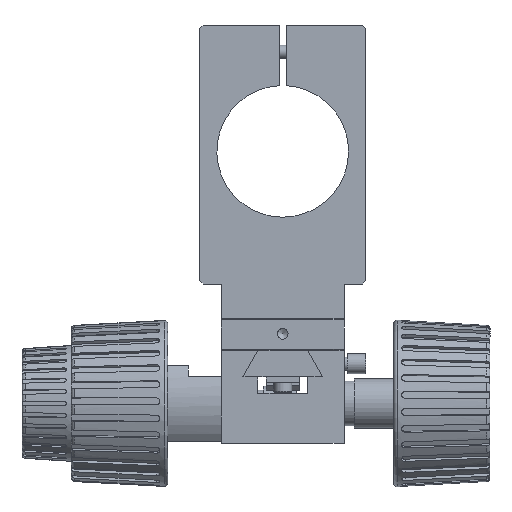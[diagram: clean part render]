
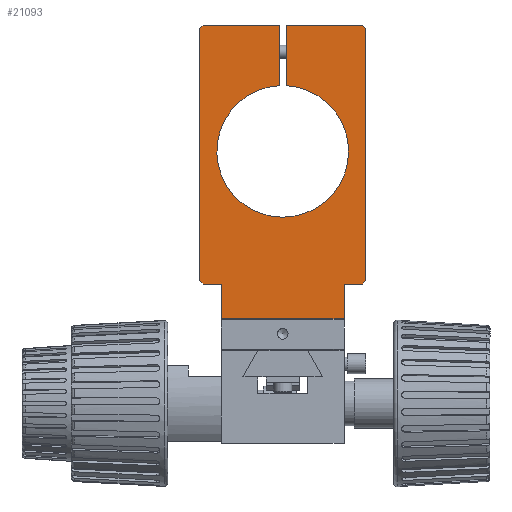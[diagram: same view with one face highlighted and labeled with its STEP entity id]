
A CAD part, left-side view. The second image highlights one B-rep face of the part: STEP entity #21093.
In plain terms, the highlighted planar face has unit normal (-1, 0, 0).
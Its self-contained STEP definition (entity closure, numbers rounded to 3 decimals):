
#1687=PLANE('',#22876);
#2633=FACE_OUTER_BOUND('',#3800,.T.);
#3800=EDGE_LOOP('',(#17815,#17816,#17817,#17818,#17819,#17820,#17821,#17822,
#17823,#17824,#17825,#17826,#17827,#17828,#17829,#17830));
#5185=LINE('',#38430,#6497);
#5201=LINE('',#38464,#6513);
#5203=LINE('',#38468,#6515);
#5205=LINE('',#38473,#6517);
#5208=LINE('',#38478,#6520);
#5210=LINE('',#38482,#6522);
#5216=LINE('',#38494,#6528);
#5220=LINE('',#38503,#6532);
#5221=LINE('',#38505,#6533);
#5223=LINE('',#38509,#6535);
#5224=LINE('',#38512,#6536);
#5226=LINE('',#38515,#6538);
#5227=LINE('',#38518,#6539);
#5230=LINE('',#38524,#6542);
#5233=LINE('',#38529,#6545);
#6497=VECTOR('',#27419,10.);
#6513=VECTOR('',#27441,10.);
#6515=VECTOR('',#27445,10.);
#6517=VECTOR('',#27449,10.);
#6520=VECTOR('',#27454,10.);
#6522=VECTOR('',#27458,10.);
#6528=VECTOR('',#27468,10.);
#6532=VECTOR('',#27478,10.);
#6533=VECTOR('',#27481,10.);
#6535=VECTOR('',#27485,10.);
#6536=VECTOR('',#27488,10.);
#6538=VECTOR('',#27492,10.);
#6539=VECTOR('',#27495,10.);
#6542=VECTOR('',#27500,10.);
#6545=VECTOR('',#27505,10.);
#7363=CIRCLE('',#22866,19.85);
#9368=VERTEX_POINT('',#38428);
#9369=VERTEX_POINT('',#38429);
#9384=VERTEX_POINT('',#38463);
#9385=VERTEX_POINT('',#38467);
#9386=VERTEX_POINT('',#38471);
#9387=VERTEX_POINT('',#38472);
#9388=VERTEX_POINT('',#38477);
#9389=VERTEX_POINT('',#38481);
#9392=VERTEX_POINT('',#38491);
#9393=VERTEX_POINT('',#38493);
#9394=VERTEX_POINT('',#38497);
#9395=VERTEX_POINT('',#38501);
#9396=VERTEX_POINT('',#38507);
#9397=VERTEX_POINT('',#38511);
#9398=VERTEX_POINT('',#38517);
#9400=VERTEX_POINT('',#38523);
#12243=EDGE_CURVE('',#9368,#9369,#5185,.T.);
#12260=EDGE_CURVE('',#9369,#9384,#5201,.T.);
#12262=EDGE_CURVE('',#9384,#9385,#5203,.T.);
#12264=EDGE_CURVE('',#9386,#9387,#5205,.T.);
#12267=EDGE_CURVE('',#9387,#9388,#5208,.T.);
#12269=EDGE_CURVE('',#9388,#9389,#5210,.T.);
#12275=EDGE_CURVE('',#9392,#9393,#5216,.T.);
#12278=EDGE_CURVE('',#9394,#9392,#7363,.T.);
#12280=EDGE_CURVE('',#9395,#9394,#5220,.T.);
#12281=EDGE_CURVE('',#9389,#9395,#5221,.T.);
#12283=EDGE_CURVE('',#9396,#9386,#5223,.T.);
#12284=EDGE_CURVE('',#9385,#9397,#5224,.T.);
#12286=EDGE_CURVE('',#9393,#9368,#5226,.T.);
#12287=EDGE_CURVE('',#9397,#9398,#5227,.T.);
#12290=EDGE_CURVE('',#9398,#9400,#5230,.T.);
#12293=EDGE_CURVE('',#9400,#9396,#5233,.T.);
#17815=ORIENTED_EDGE('',*,*,#12243,.F.);
#17816=ORIENTED_EDGE('',*,*,#12286,.F.);
#17817=ORIENTED_EDGE('',*,*,#12275,.F.);
#17818=ORIENTED_EDGE('',*,*,#12278,.F.);
#17819=ORIENTED_EDGE('',*,*,#12280,.F.);
#17820=ORIENTED_EDGE('',*,*,#12281,.F.);
#17821=ORIENTED_EDGE('',*,*,#12269,.F.);
#17822=ORIENTED_EDGE('',*,*,#12267,.F.);
#17823=ORIENTED_EDGE('',*,*,#12264,.F.);
#17824=ORIENTED_EDGE('',*,*,#12283,.F.);
#17825=ORIENTED_EDGE('',*,*,#12293,.F.);
#17826=ORIENTED_EDGE('',*,*,#12290,.F.);
#17827=ORIENTED_EDGE('',*,*,#12287,.F.);
#17828=ORIENTED_EDGE('',*,*,#12284,.F.);
#17829=ORIENTED_EDGE('',*,*,#12262,.F.);
#17830=ORIENTED_EDGE('',*,*,#12260,.F.);
#21093=ADVANCED_FACE('',(#2633),#1687,.T.);
#22866=AXIS2_PLACEMENT_3D('',#38499,#27473,#27474);
#22876=AXIS2_PLACEMENT_3D('',#38532,#27509,#27510);
#27419=DIRECTION('',(0.,-0.707,-0.707));
#27441=DIRECTION('',(0.,0.,-1.));
#27445=DIRECTION('',(0.,0.707,-0.707));
#27449=DIRECTION('',(0.,0.707,0.707));
#27454=DIRECTION('',(0.,0.,1.));
#27458=DIRECTION('',(0.,-0.707,0.707));
#27468=DIRECTION('',(0.,0.,1.));
#27473=DIRECTION('center_axis',(-1.,0.,0.));
#27474=DIRECTION('ref_axis',(0.,-0.05,
-0.999));
#27478=DIRECTION('',(0.,0.,-1.));
#27481=DIRECTION('',(0.,-1.,0.));
#27485=DIRECTION('',(0.,1.,0.));
#27488=DIRECTION('',(0.,1.,0.));
#27492=DIRECTION('',(0.,-1.,0.));
#27495=DIRECTION('',(0.,0.,-1.));
#27500=DIRECTION('',(0.,1.,0.));
#27505=DIRECTION('',(0.,0.,1.));
#27509=DIRECTION('center_axis',(-1.,0.,0.));
#27510=DIRECTION('ref_axis',(0.,-1.,0.));
#38428=CARTESIAN_POINT('',(-28.01,-3.062,126.));
#38429=CARTESIAN_POINT('',(-28.01,-4.062,125.));
#38430=CARTESIAN_POINT('',(-28.01,-18.125,110.938));
#38463=CARTESIAN_POINT('',(-28.01,-4.062,49.));
#38464=CARTESIAN_POINT('',(-28.01,-4.062,48.));
#38467=CARTESIAN_POINT('',(-28.01,-3.062,48.));
#38468=CARTESIAN_POINT('',(-28.01,4.,40.938));
#38471=CARTESIAN_POINT('',(-28.01,44.938,48.));
#38472=CARTESIAN_POINT('',(-28.01,45.938,49.));
#38473=CARTESIAN_POINT('',(-28.01,37.875,40.938));
#38477=CARTESIAN_POINT('',(-28.01,45.938,125.));
#38478=CARTESIAN_POINT('',(-28.01,45.938,126.));
#38481=CARTESIAN_POINT('',(-28.01,44.938,126.));
#38482=CARTESIAN_POINT('',(-28.01,60.,110.938));
#38491=CARTESIAN_POINT('',(-28.01,19.938,107.825));
#38493=CARTESIAN_POINT('',(-28.01,19.938,126.));
#38494=CARTESIAN_POINT('',(-28.01,19.938,126.));
#38497=CARTESIAN_POINT('',(-28.01,21.938,107.825));
#38499=CARTESIAN_POINT('Origin',(-28.01,20.938,88.));
#38501=CARTESIAN_POINT('',(-28.01,21.938,126.));
#38503=CARTESIAN_POINT('',(-28.01,21.938,107.825));
#38505=CARTESIAN_POINT('',(-28.01,21.938,126.));
#38507=CARTESIAN_POINT('',(-28.01,39.438,48.));
#38509=CARTESIAN_POINT('',(-28.01,45.938,48.));
#38511=CARTESIAN_POINT('',(-28.01,2.438,48.));
#38512=CARTESIAN_POINT('',(-28.01,45.938,48.));
#38515=CARTESIAN_POINT('',(-28.01,-4.062,126.));
#38517=CARTESIAN_POINT('',(-28.01,2.438,37.5));
#38518=CARTESIAN_POINT('',(-28.01,2.438,37.5));
#38523=CARTESIAN_POINT('',(-28.01,39.438,37.5));
#38524=CARTESIAN_POINT('',(-28.01,39.438,37.5));
#38529=CARTESIAN_POINT('',(-28.01,39.438,48.));
#38532=CARTESIAN_POINT('Origin',(-28.01,20.938,42.75));
